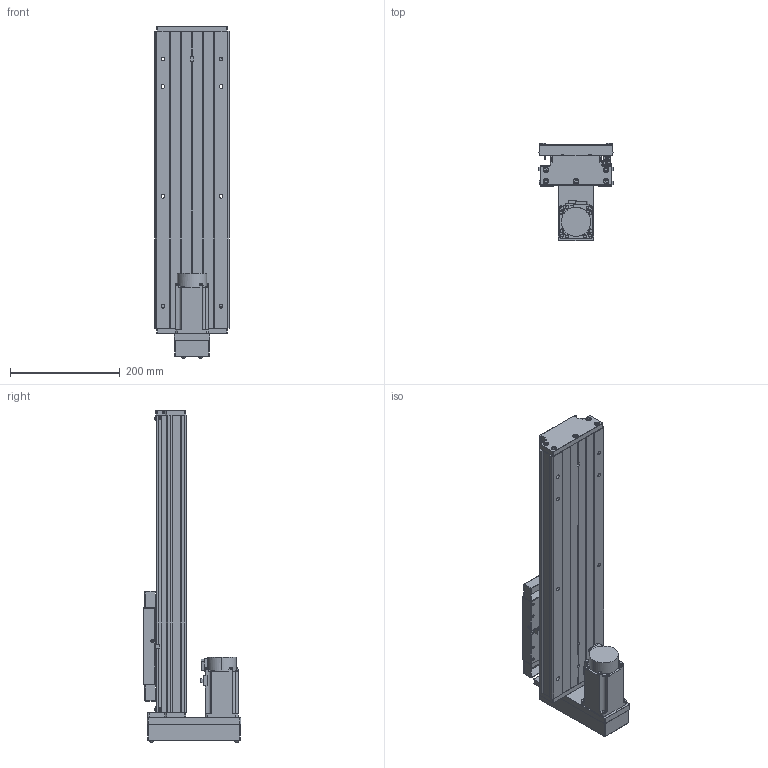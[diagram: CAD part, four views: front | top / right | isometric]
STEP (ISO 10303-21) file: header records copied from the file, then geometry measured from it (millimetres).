
FILE_DESCRIPTION (( 'STEP AP203' ), '1' );
FILE_NAME ('GTH14-300-BM-M40-C4.step', '2023-06-30T08:45:32', ( '微软用户' ), ( '微软中国' ), 'SwSTEP 2.0', 'SolidWorks 2020', '' );
FILE_SCHEMA (( 'CONFIG_CONTROL_DESIGN' ));
Length unit declared in the file: millimetre
Products named in the file (19): GBT70.1 M5℅16; GBT 70.2-M3¡Á5_M3¡Á6; す晦芛蹟隊 M3℅5; CTHA60-017; HG-KN43J-S100; GTH14-001_300; EE_SX911P_R; GBT 70.2-M4¡Á35_M4¡Á35; GTH14-002_GTH14-002; CTHA60-016; GTH14-015-2_CTHA86-015-2; GTH14-004; GBT 70.1-M3℅5; GTH14-033; GTH14-005; GBT77-2000 M3×3; GTH14-300-BM-M40-C4; GB1155-6X6; GTH14-031
Assembly tree (58 placements, depth 2):
  GTH14-300-BM-M40-C4
    GTH14-001_300
    GTH14-002_GTH14-002
    GTH14-004
    GTH14-005
    GB1155-6X6  x2
    GBT70.1 M5℅16  x10
    CTHA60-017  x3
    EE_SX911P_R  x3
    CTHA60-016  x2
    GBT 70.1-M3℅5  x6
    GBT77-2000 M3×3  x6
    GTH14-031
    GBT 70.2-M3¡Á5_M3¡Á6  x8
    す晦芛蹟隊 M3℅5  x6
    HG-KN43J-S100
    GBT 70.2-M4¡Á35_M4¡Á35  x4
    GTH14-015-2_CTHA86-015-2
    GTH14-033
Bounding box: 135 x 177.5 x 604.2 mm (x, y, z)
Volume: 3604100.3 mm3; surface area: 660201.4 mm2
Topology: 61 solids, 61 shells, 2443 faces, 5809 edges, 3578 vertices
Faces by surface type: plane 1305, cylinder 648, cone 314, torus 124, sphere 32, bspline 20
Entity records: 43850 total; most frequent: CARTESIAN_POINT 9807, DIRECTION 6429, ORIENTED_EDGE 6308, EDGE_CURVE 3154, AXIS2_PLACEMENT_3D 2192, LINE 2045, VECTOR 2045, VERTEX_POINT 1996
